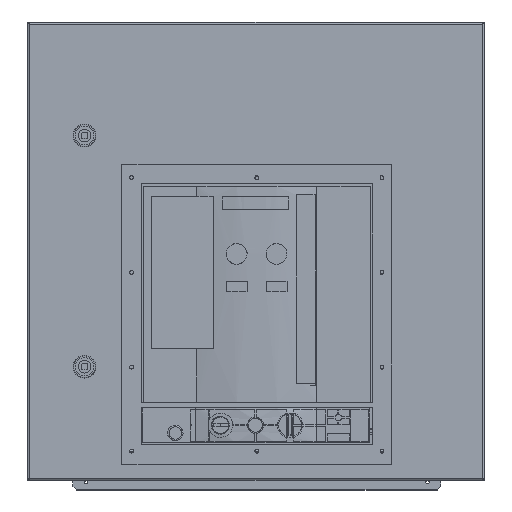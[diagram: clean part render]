
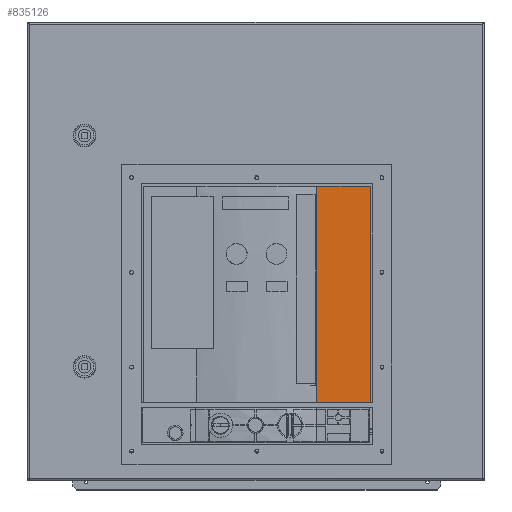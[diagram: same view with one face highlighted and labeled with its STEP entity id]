
A CAD part, top view. The second image highlights one B-rep face of the part: STEP entity #835126.
In plain terms, the highlighted planar face has unit normal (0, 0, 1).
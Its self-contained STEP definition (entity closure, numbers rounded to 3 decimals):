
#832291=CARTESIAN_POINT(' ',(78.,53.7,31.55));
#832292=VERTEX_POINT(' ',#832291);
#832306=CARTESIAN_POINT(' ',(78.,334.5,31.55));
#832311=DIRECTION(' ',(0.,-1.,0.));
#832316=VECTOR(' ',#832311,1.);
#832321=LINE('',#832306,#832316);
#832326=CARTESIAN_POINT(' ',(78.,334.5,31.55));
#832327=VERTEX_POINT(' ',#832326);
#832331=EDGE_CURVE(' ',#832327,#832292,#832321,.T.);
#834846=CARTESIAN_POINT(' ',(147.,53.7,31.55));
#834847=VERTEX_POINT(' ',#834846);
#834861=CARTESIAN_POINT(' ',(78.,53.7,31.55));
#834866=DIRECTION(' ',(1.,0.,0.));
#834871=VECTOR(' ',#834866,1.);
#834876=LINE('',#834861,#834871);
#834881=EDGE_CURVE(' ',#832292,#834847,#834876,.T.);
#835016=DIRECTION(' ',(0.,0.,1.));
#835021=CARTESIAN_POINT(' ',(78.,53.7,31.55));
#835026=DIRECTION(' ',(1.,0.,0.));
#835031=AXIS2_PLACEMENT_3D(' ',#835021,#835016,#835026);
#835036=PLANE('NONE',#835031);
#835041=CARTESIAN_POINT(' ',(147.,53.7,31.55));
#835046=DIRECTION(' ',(0.,1.,0.));
#835051=VECTOR(' ',#835046,1.);
#835056=LINE('',#835041,#835051);
#835061=CARTESIAN_POINT(' ',(147.,334.5,31.55));
#835062=VERTEX_POINT(' ',#835061);
#835066=EDGE_CURVE(' ',#834847,#835062,#835056,.T.);
#835071=ORIENTED_EDGE(' ',*,*,#835066,.T.);
#835076=CARTESIAN_POINT(' ',(147.,334.5,31.55));
#835081=DIRECTION(' ',(-1.,0.,0.));
#835086=VECTOR(' ',#835081,1.);
#835091=LINE('',#835076,#835086);
#835096=EDGE_CURVE(' ',#835062,#832327,#835091,.T.);
#835101=ORIENTED_EDGE(' ',*,*,#835096,.T.);
#835106=ORIENTED_EDGE(' ',*,*,#832331,.T.);
#835111=ORIENTED_EDGE(' ',*,*,#834881,.T.);
#835116=EDGE_LOOP(' ',(#835071,#835101,#835106,#835111));
#835121=FACE_OUTER_BOUND(' ',#835116,.T.);
#835126=ADVANCED_FACE('NONE',(#835121),#835036,.T.);
